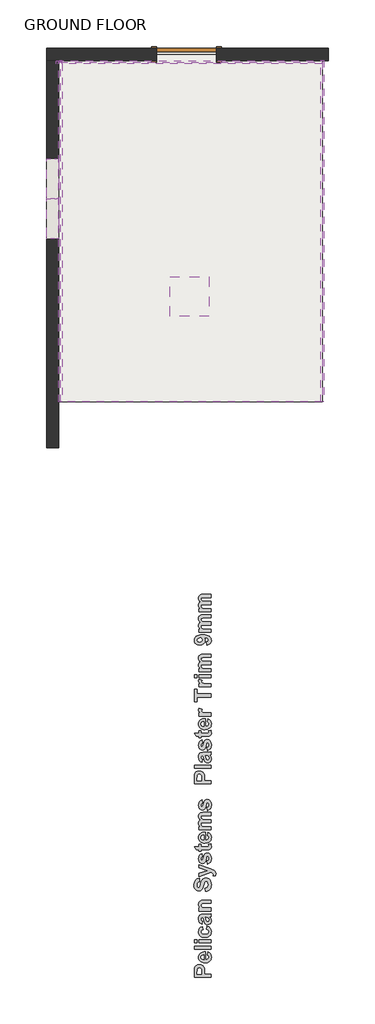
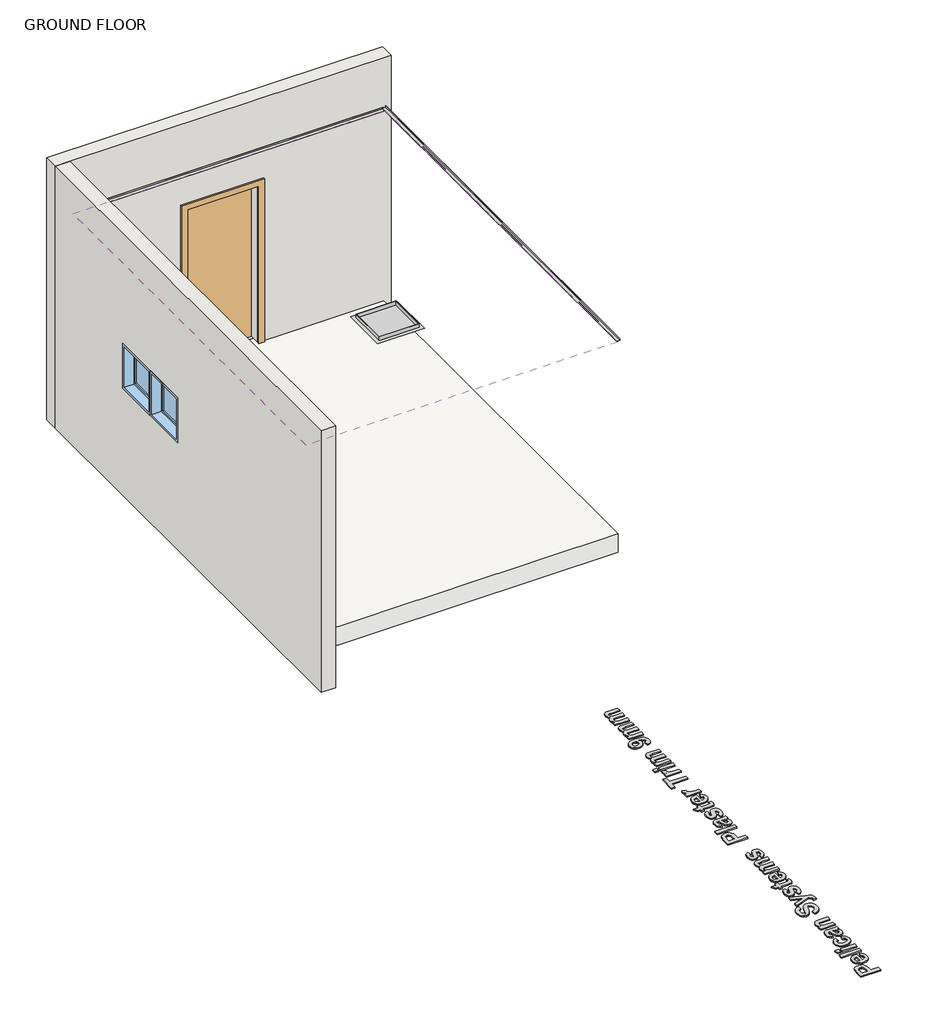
# One storey: 5 proxies, 2 walls, 2 windows, 1 covering, 1 door, 1 slab.
"""IFC4 building model written with IfcOpenShell, lengths in millimetres."""

from ifc_helpers import new_model, si_unit, frame, origin, origin_with_axes, place, context, project, spatial, polyline, outline, extrude, faceted_brep, transform, mapped, element, save
from components import m_single_flush_0915_x_2134mm_f5238887, m_fixed_0610_x_0610mm_09852ef8

model = new_model("IFC4")

# Units and contexts
model_context = context("Model", 3, world=origin())
ifc_project = project(units=[si_unit("LENGTHUNIT", "METRE", prefix="MILLI")], contexts=[model_context])

# Site, building, storey
site = spatial("IfcSite", under=ifc_project)
building = spatial("IfcBuilding", under=site)
storey = spatial("IfcBuildingStorey", under=building, Name="GROUND FLOOR", Elevation=0.0)

# Proxies
placement = place(None, origin())
element("IfcBuildingElementProxy", 1, Name="600mm Arial", ObjectType="600mm Arial", at=placement, inside=storey, context=model_context, shape_type="SweptSolid", body=[
    extrude(outline(polyline([(160266.1883999, 28227.9159281), (160011.1235499, 28227.9159281), (160011.1235499, 28310.0908388), (160014.9191578, 28371.0103454), (160023.9732641, 28391.0558995), (160039.7487594, 28407.5430713), (160061.6604874, 28418.5740567), (160089.123292, 28422.2510519), (160110.6080141, 28420.0922999), (160128.3762035, 28413.6160439), (160142.578103, 28403.8107235), (160153.3639555, 28391.6647783), (160165.4150105, 28364.6210721), (160169.020838, 28310.5336597), (160169.020838, 28276.499709), (160266.1883999, 28276.499709), (160266.1883999, 28227.9159281)]), holes=[polyline([(160055.6586824, 28276.499709), (160124.4857055, 28276.499709), (160124.4857055, 28306.6747917), (160120.6900976, 28350.2293922), (160108.7655628, 28367.436148), (160099.980312, 28372.1094902), (160089.8824136, 28373.6672709), (160077.8155435, 28371.4768889), (160068.0576682, 28364.9057427), (160061.0674237, 28354.9976246), (160057.3034459, 28342.7963268), (160055.6586824, 28303.1322244), (160055.6586824, 28276.499709)])]), origin_with_axes(), (0.0, 0.0, 1.0), 15.0),
    extrude(outline(polyline([(160209.5073221, 28568.0023947), (160217.6046189, 28616.5861757), (160240.2754686, 28604.7565311), (160256.7942704, 28587.6130355), (160266.8763538, 28565.3296542), (160270.2370483, 28538.0803525), (160268.2562154, 28516.0776881), (160262.3137168, 28497.1352325), (160252.4095525, 28481.2529857), (160238.5437225, 28468.4309478), (160209.8394378, 28455.05143), (160174.4612093, 28450.5915908), (160152.6206489, 28452.0702963), (160133.2788637, 28456.506413), (160116.4358537, 28463.8999409), (160102.0916189, 28474.2508799), (160090.6336276, 28486.8633686), (160082.4493481, 28501.0415456), (160077.5387804, 28516.7854108), (160075.9019245, 28534.0949643), (160077.5822717, 28553.329998), (160082.6233135, 28570.4220947), (160091.0250497, 28585.3712546), (160102.7874804, 28598.1774774), (160118.0213108, 28608.3821274), (160136.8372461, 28615.5265685), (160159.2352864, 28619.6108007), (160185.2154316, 28620.6348241), (160185.2154316, 28499.1753717), (160205.6800842, 28502.2909332), (160221.020666, 28510.6254555), (160230.604576, 28522.913736), (160233.7992126, 28537.8905721), (160232.3600446, 28548.0912683), (160228.0425406, 28556.5523109), (160220.5304, 28563.2104398), (160209.5073221, 28568.0023947)]), holes=[polyline([(160156.8748928, 28572.0510431), (160137.6675353, 28569.093632), (160123.6949538, 28561.2335606), (160115.1785586, 28549.8151069), (160112.3397602, 28536.1825486), (160115.3288014, 28521.7908687), (160124.2959251, 28510.1193744), (160138.4503795, 28502.4648985), (160156.8748928, 28499.9977534), (160156.8748928, 28572.0510431)])]), origin_with_axes(), (0.0, 0.0, 1.0), 15.0),
    extrude(outline(polyline([(160266.1883999, 28657.0726598), (160011.1235499, 28657.0726598), (160011.1235499, 28705.6564407), (160266.1883999, 28705.6564407), (160266.1883999, 28657.0726598)])), origin_with_axes(), (0.0, 0.0, 1.0), 15.0),
    extrude(outline(polyline([(160055.6586824, 28754.2402217), (160011.1235499, 28754.2402217), (160011.1235499, 28802.8240026), (160055.6586824, 28802.8240026), (160055.6586824, 28754.2402217)])), origin_with_axes(), (0.0, 0.0, 1.0), 15.0),
    extrude(outline(polyline([(160266.1883999, 28754.2402217), (160079.9505729, 28754.2402217), (160079.9505729, 28802.8240026), (160266.1883999, 28802.8240026), (160266.1883999, 28754.2402217)])), origin_with_axes(), (0.0, 0.0, 1.0), 15.0),
    extrude(outline(polyline([(160132.5830023, 29005.2564233), (160140.6802991, 28956.6726423), (160128.3208509, 28952.9482021), (160119.456525, 28946.3296108), (160114.1189514, 28937.0540941), (160112.3397602, 28925.3588773), (160115.6767322, 28909.9550352), (160125.687648, 28898.0305005), (160143.51119, 28890.3918396), (160170.2860406, 28887.8456193), (160199.9708573, 28890.4946373), (160219.4391628, 28898.4416913), (160230.2092001, 28910.8485846), (160233.7992126, 28926.8771204), (160231.7511658, 28939.0151581), (160225.6070256, 28948.7334958), (160214.4495199, 28955.9846884), (160197.3613769, 28960.7212907), (160205.4586737, 29009.3050717), (160233.6015247, 28998.6694621), (160253.8843043, 28981.3124635), (160266.1488623, 28957.0759257), (160270.2370483, 28925.8016982), (160268.6278687, 28907.0351848), (160263.8003299, 28890.2732268), (160255.754432, 28875.5158243), (160244.4901748, 28862.7629772), (160230.3831655, 28852.4812289), (160213.8090111, 28845.1371231), (160194.7677115, 28840.7306595), (160173.2592668, 28839.2618384), (160151.507666, 28840.7207751), (160132.3062392, 28845.0975855), (160115.6549865, 28852.3922694), (160101.5539078, 28862.6048269), (160090.3311651, 28875.308252), (160082.3149203, 28890.0755389), (160077.5051735, 28906.9066877), (160075.9019245, 28925.8016982), (160079.4049543, 28955.0436939), (160089.9140436, 28977.6117458), (160107.5873428, 28994.1384552), (160132.5830023, 29005.2564233)])), origin_with_axes(), (0.0, 0.0, 1.0), 15.0),
    extrude(outline(polyline([(160136.6316507, 29086.2293915), (160128.5343539, 29041.694259), (160105.1913654, 29051.3493365), (160088.8069913, 29066.1442998), (160079.1281912, 29087.7080971), (160075.9019245, 29117.6696768), (160077.8550811, 29144.7608281), (160083.7145507, 29163.9128329), (160092.5709691, 29176.8495298), (160103.5149719, 29185.2947574), (160120.5240397, 29189.944377), (160147.5756534, 29191.4942502), (160205.0158528, 29191.4942502), (160241.200648, 29194.0562856), (160266.1883999, 29203.6401955), (160266.1883999, 29155.0564145), (160250.7529278, 29150.5016851), (160244.6166951, 29148.7936615), (160263.816145, 29122.7937475), (160268.6318225, 29108.4811428), (160270.2370483, 29093.2512661), (160266.3386427, 29068.4770171), (160254.6434259, 29049.5701453), (160237.0017567, 29037.590258), (160215.2639941, 29033.5969622), (160200.3662331, 29035.3761534), (160187.1764957, 29040.7137269), (160176.2799381, 29049.2617522), (160168.2617164, 29060.6722984), (160156.8116326, 29097.6794753), (160144.7289475, 29142.9104693), (160139.6048769, 29142.9104693), (160126.9844806, 29141.4001337), (160118.6025132, 29136.8691267), (160113.9054485, 29128.1629512), (160112.3397602, 29114.1271095), (160113.684038, 29104.0529336), (160117.7168714, 29096.4775328), (160136.6316507, 29086.2293915)]), holes=[polyline([(160181.1667832, 29142.9104693), (160187.9039872, 29115.5188324), (160195.5900932, 29090.9739014), (160202.5012626, 29084.3790327), (160211.0888254, 29082.1807431), (160219.7001108, 29083.9441193), (160227.0620086, 29089.2342478), (160232.1149116, 29097.2445619), (160233.7992126, 29107.168495), (160231.8381485, 29119.0772148), (160225.9549563, 29130.3849633), (160211.4051261, 29141.1391856), (160189.9599415, 29142.9104693), (160181.1667832, 29142.9104693)])]), origin_with_axes(), (0.0, 0.0, 1.0), 15.0),
    extrude(outline(polyline([(160266.1883999, 29406.0726161), (160266.1883999, 29357.4888352), (160170.475821, 29357.4888352), (160131.1280193, 29354.4523488), (160117.2740505, 29344.5205082), (160112.3397602, 29328.0096139), (160114.1031364, 29316.251137), (160119.3932649, 29305.7736777), (160127.6012669, 29297.4866005), (160138.1182638, 29292.2992697), (160181.2300434, 29288.6618121), (160266.1883999, 29288.6618121), (160266.1883999, 29240.0780312), (160079.9505729, 29240.0780312), (160079.9505729, 29288.6618121), (160106.7728687, 29288.6618121), (160093.2668306, 29300.9540464), (160083.6196605, 29314.7408013), (160077.8313585, 29330.0220768), (160075.9019245, 29346.7978729), (160081.7851167, 29375.0118916), (160096.7777679, 29394.3694918), (160117.4322008, 29403.5105808), (160150.5488796, 29406.0726161), (160266.1883999, 29406.0726161)])), origin_with_axes(), (0.0, 0.0, 1.0), 15.0),
    extrude(outline(polyline([(160181.1667832, 29539.6780137), (160177.1181348, 29588.2617947), (160198.84799, 29595.3469294), (160213.9355313, 29607.2398341), (160222.7603197, 29624.019584), (160225.7019158, 29645.7652542), (160223.1003429, 29668.333306), (160215.2956241, 29684.5437147), (160204.0115982, 29694.317405), (160190.9721036, 29697.5753018), (160175.758042, 29692.1665606), (160164.8456693, 29673.2201512), (160154.0281868, 29631.0889037), (160142.8469586, 29595.1255189), (160129.1669552, 29571.7509004), (160105.8714118, 29553.769208), (160077.9895088, 29547.7753105), (160059.2012498, 29550.5271263), (160041.6781934, 29558.7825734), (160026.7962475, 29572.2253514), (160015.9313199, 29590.5391594), (160009.2890061, 29613.423512), (160007.0749015, 29640.5779234), (160012.594348, 29682.5431131), (160019.493656, 29699.0836606), (160029.1526874, 29712.6628432), (160041.112806, 29723.3241522), (160054.9153759, 29731.111079), (160070.5603972, 29736.0236236), (160088.0478697, 29738.0617859), (160088.0478697, 29689.478005), (160071.3551026, 29684.1088013), (160060.1185217, 29674.8332846), (160053.737156, 29660.7974429), (160051.610034, 29641.1472646), (160053.8715837, 29620.4612016), (160060.6562328, 29604.8359491), (160067.456697, 29598.4783059), (160076.2182252, 29596.3590915), (160084.4894873, 29598.2885255), (160091.4639168, 29604.0768275), (160099.6323813, 29620.8802999), (160108.0697013, 29651.6800764), (160116.8470446, 29684.5516222), (160126.0355787, 29707.5704026), (160137.1614543, 29723.7017361), (160151.7508221, 29735.9109415), (160169.985555, 29743.5970474), (160192.0475258, 29746.1590828), (160213.1131496, 29743.130504), (160232.7870505, 29734.0447676), (160249.3295749, 29719.4158622), (160261.0010691, 29699.7577763), (160267.9280535, 29674.8570071), (160270.2370483, 29644.5000515), (160268.8156722, 29621.7975719), (160264.551544, 29601.894353), (160257.4446636, 29584.790395), (160247.4950311, 29570.4856977), (160234.8212591, 29558.8814174), (160219.5419605, 29549.8787099), (160201.6571352, 29543.4775754), (160181.1667832, 29539.6780137)])), origin_with_axes(), (0.0, 0.0, 1.0), 15.0),
    extrude(outline(polyline([(160079.9505729, 29766.4023248), (160079.9505729, 29814.9861058), (160211.7846869, 29857.4969141), (160079.9505729, 29900.0077224), (160079.9505729, 29948.5915034), (160258.4074037, 29885.5844125), (160291.5557126, 29873.8812881), (160315.1517416, 29862.3363142), (160328.3731091, 29849.7159179), (160336.2489955, 29832.1612315), (160339.0640713, 29808.6600926), (160336.2806255, 29782.5969185), (160300.2856107, 29778.5482701), (160302.6262356, 29797.8426102), (160300.0562928, 29811.6095963), (160292.3464642, 29821.2804889), (160266.1883999, 29832.9519831), (160079.9505729, 29766.4023248)])), origin_with_axes(), (0.0, 0.0, 1.0), 15.0),
    extrude(outline(polyline([(160213.5559705, 29956.6888002), (160205.4586737, 30005.2725812), (160217.6995091, 30009.8984783), (160226.5875576, 30017.703197), (160231.9962988, 30028.9555929), (160233.7992126, 30043.9245215), (160232.075374, 30060.1665602), (160226.9038583, 30071.8222394), (160221.2737066, 30076.5667493), (160213.9987915, 30078.1482526), (160204.8893325, 30074.7954656), (160198.5000592, 30058.9171726), (160186.0694434, 30011.9939701), (160174.7142498, 29986.1047613), (160156.7325575, 29970.1157631), (160132.8993029, 29964.786097), (160110.7108118, 29969.3566415), (160092.3495587, 29983.068275), (160080.013833, 30006.3954485), (160075.9019245, 30039.8126129), (160079.2230814, 30071.6799041), (160089.1865521, 30094.1530658), (160105.6658164, 30109.161532), (160128.5343539, 30118.6347367), (160136.6316507, 30070.0509558), (160126.2411741, 30066.4767583), (160118.6025132, 30060.6884563), (160113.9054485, 30052.338119), (160112.3397602, 30041.0778156), (160113.668223, 30027.2396618), (160117.6536113, 30017.9878676), (160127.5221918, 30013.369878), (160136.31535, 30017.9878676), (160149.9162783, 30060.9731269), (160159.7374137, 30092.1999093), (160171.6145034, 30112.3087236), (160187.2872009, 30123.126206), (160208.1155992, 30126.7320335), (160231.814426, 30121.5051652), (160251.9232403, 30105.8245601), (160259.9355313, 30094.1155051), (160265.6585963, 30079.8958137), (160270.2370483, 30043.9245215), (160266.4256254, 30010.6101548), (160254.9913566, 29985.0609692), (160237.0096643, 29967.1346294), (160213.5559705, 29956.6888002)])), origin_with_axes(), (0.0, 0.0, 1.0), 15.0),
    extrude(outline(polyline([(160079.9505729, 30260.3374312), (160116.3884086, 30260.3374312), (160116.3884086, 30223.8995954), (160196.2859546, 30223.8995954), (160224.5316033, 30225.0066477), (160231.1739171, 30230.0358282), (160233.7992126, 30239.588108), (160229.1179629, 30262.3617554), (160263.6579946, 30264.3860796), (160268.5922849, 30245.6452656), (160270.2370483, 30224.5954569), (160265.6823188, 30200.0505259), (160253.9159344, 30184.0140826), (160234.3685538, 30176.8973178), (160199.0061403, 30175.3158145), (160116.3884086, 30175.3158145), (160116.3884086, 30151.023924), (160079.9505729, 30151.023924), (160079.9505729, 30175.3158145), (160043.5127372, 30175.3158145), (160015.1721983, 30223.8995954), (160079.9505729, 30223.8995954), (160079.9505729, 30260.3374312)])), origin_with_axes(), (0.0, 0.0, 1.0), 15.0),
    extrude(outline(polyline([(160209.5073221, 30393.9428288), (160217.6046189, 30442.5266097), (160240.2754686, 30430.6969651), (160256.7942704, 30413.5534695), (160266.8763538, 30391.2700882), (160270.2370483, 30364.0207866), (160268.2562154, 30342.0181221), (160262.3137168, 30323.0756665), (160252.4095525, 30307.1934198), (160238.5437225, 30294.3713819), (160209.8394378, 30280.9918641), (160174.4612093, 30276.5320248), (160152.6206489, 30278.0107304), (160133.2788637, 30282.4468471), (160116.4358537, 30289.840375), (160102.0916189, 30300.191314), (160090.6336276, 30312.8038027), (160082.4493481, 30326.9819796), (160077.5387804, 30342.7258448), (160075.9019245, 30360.0353983), (160077.5822717, 30379.270432), (160082.6233135, 30396.3625288), (160091.0250497, 30411.3116886), (160102.7874804, 30424.1179115), (160118.0213108, 30434.3225614), (160136.8372461, 30441.4670025), (160159.2352864, 30445.5512347), (160185.2154316, 30446.5752581), (160185.2154316, 30325.1158058), (160205.6800842, 30328.2313672), (160221.020666, 30336.5658895), (160230.604576, 30348.8541701), (160233.7992126, 30363.8310062), (160232.3600446, 30374.0317024), (160228.0425406, 30382.492745), (160220.5304, 30389.1508738), (160209.5073221, 30393.9428288)]), holes=[polyline([(160156.8748928, 30397.9914772), (160137.6675353, 30395.034066), (160123.6949538, 30387.1739947), (160115.1785586, 30375.755541), (160112.3397602, 30362.1229826), (160115.3288014, 30347.7313027), (160124.2959251, 30336.0598085), (160138.4503795, 30328.4053326), (160156.8748928, 30325.9381875), (160156.8748928, 30397.9914772)])]), origin_with_axes(), (0.0, 0.0, 1.0), 15.0),
    extrude(outline(polyline([(160079.9505729, 30478.9644454), (160079.9505729, 30527.5482264), (160104.8750647, 30527.5482264), (160092.1993159, 30539.508345), (160083.1452096, 30552.5517933), (160077.7127458, 30566.6785714), (160075.9019245, 30581.8886793), (160077.6811157, 30597.5376543), (160083.0186893, 30610.9567097), (160091.9620904, 30622.1616605), (160104.5587641, 30631.1683217), (160091.9620904, 30643.606845), (160083.0186893, 30657.0100854), (160077.6811157, 30671.3622277), (160075.9019245, 30686.647457), (160077.9816013, 30705.1036003), (160084.2206318, 30720.4916273), (160094.4924956, 30732.6059425), (160108.6706726, 30741.2409504), (160124.24848, 30744.9416681), (160147.1960926, 30746.1752407), (160266.1883999, 30746.1752407), (160266.1883999, 30697.5914597), (160158.9624771, 30697.5914597), (160136.0148644, 30696.3578871), (160122.9674623, 30692.6571695), (160114.9966857, 30684.275202), (160112.3397602, 30672.2874071), (160113.929171, 30662.5848845), (160118.6974034, 30653.467518), (160126.5337522, 30645.8763022), (160137.3275121, 30640.7522316), (160176.1059727, 30636.8617335), (160266.1883999, 30636.8617335), (160266.1883999, 30588.2779526), (160163.3906863, 30588.2779526), (160128.0599029, 30585.7475473), (160116.2302583, 30577.9349211), (160112.3397602, 30563.5432412), (160113.8817259, 30553.1527646), (160118.507623, 30543.8693403), (160126.0513937, 30536.3730147), (160136.3469801, 30531.3438343), (160175.0305505, 30527.5482264), (160266.1883999, 30527.5482264), (160266.1883999, 30478.9644454), (160079.9505729, 30478.9644454)])), origin_with_axes(), (0.0, 0.0, 1.0), 15.0),
    extrude(outline(polyline([(160213.5559705, 30774.5157795), (160205.4586737, 30823.0995605), (160217.6995091, 30827.7254576), (160226.5875576, 30835.5301763), (160231.9962988, 30846.7825722), (160233.7992126, 30861.7515008), (160232.075374, 30877.9935396), (160226.9038583, 30889.6492188), (160221.2737066, 30894.3937286), (160213.9987915, 30895.9752319), (160204.8893325, 30892.622445), (160198.5000592, 30876.744152), (160186.0694434, 30829.8209495), (160174.7142498, 30803.9317407), (160156.7325575, 30787.9427424), (160132.8993029, 30782.6130764), (160110.7108118, 30787.1836209), (160092.3495587, 30800.8952544), (160080.013833, 30824.2224278), (160075.9019245, 30857.6395923), (160079.2230814, 30889.5068835), (160089.1865521, 30911.9800452), (160105.6658164, 30926.9885114), (160128.5343539, 30936.461716), (160136.6316507, 30887.8779351), (160126.2411741, 30884.3037377), (160118.6025132, 30878.5154356), (160113.9054485, 30870.1650983), (160112.3397602, 30858.9047949), (160113.668223, 30845.0666411), (160117.6536113, 30835.8148469), (160127.5221918, 30831.1968573), (160136.31535, 30835.8148469), (160149.9162783, 30878.8001062), (160159.7374137, 30910.0268886), (160171.6145034, 30930.1357029), (160187.2872009, 30940.9531854), (160208.1155992, 30944.5590129), (160231.814426, 30939.3321445), (160251.9232403, 30923.6515394), (160259.9355313, 30911.9424845), (160265.6585963, 30897.722793), (160270.2370483, 30861.7515008), (160266.4256254, 30828.4371341), (160254.9913566, 30802.8879485), (160237.0096643, 30784.9616087), (160213.5559705, 30774.5157795)])), origin_with_axes(), (0.0, 0.0, 1.0), 15.0),
    extrude(outline(polyline([(160266.1883999, 31183.4292692), (160011.1235499, 31183.4292692), (160011.1235499, 31265.60418), (160014.9191578, 31326.5236865), (160023.9732641, 31346.5692407), (160039.7487594, 31363.0564124), (160061.6604874, 31374.0873979), (160089.123292, 31377.764393), (160110.6080141, 31375.605641), (160128.3762035, 31369.1293851), (160142.578103, 31359.3240647), (160153.3639555, 31347.1781195), (160165.4150105, 31320.1344133), (160169.020838, 31266.0470009), (160169.020838, 31232.0130502), (160266.1883999, 31232.0130502), (160266.1883999, 31183.4292692)]), holes=[polyline([(160055.6586824, 31232.0130502), (160124.4857055, 31232.0130502), (160124.4857055, 31262.1881329), (160120.6900976, 31305.7427334), (160108.7655628, 31322.9494891), (160099.980312, 31327.6228313), (160089.8824136, 31329.1806121), (160077.8155435, 31326.99023), (160068.0576682, 31320.4190839), (160061.0674237, 31310.5109658), (160057.3034459, 31298.3096679), (160055.6586824, 31258.6455655), (160055.6586824, 31232.0130502)])]), origin_with_axes(), (0.0, 0.0, 1.0), 15.0),
    extrude(outline(polyline([(160266.1883999, 31418.2508771), (160011.1235499, 31418.2508771), (160011.1235499, 31466.8346581), (160266.1883999, 31466.8346581), (160266.1883999, 31418.2508771)])), origin_with_axes(), (0.0, 0.0, 1.0), 15.0),
    extrude(outline(polyline([(160136.6316507, 31555.9049232), (160128.5343539, 31511.3697906), (160105.1913654, 31521.0248682), (160088.8069913, 31535.8198314), (160079.1281912, 31557.3836287), (160075.9019245, 31587.3452085), (160077.8550811, 31614.4363598), (160083.7145507, 31633.5883646), (160092.5709691, 31646.5250615), (160103.5149719, 31654.970289), (160120.5240397, 31659.6199087), (160147.5756534, 31661.1697819), (160205.0158528, 31661.1697819), (160241.200648, 31663.7318172), (160266.1883999, 31673.3157271), (160266.1883999, 31624.7319462), (160250.7529278, 31620.1772167), (160244.6166951, 31618.4691932), (160263.816145, 31592.4692791), (160268.6318225, 31578.1566744), (160270.2370483, 31562.9267978), (160266.3386427, 31538.1525488), (160254.6434259, 31519.245677), (160237.0017567, 31507.2657896), (160215.2639941, 31503.2724938), (160200.3662331, 31505.051685), (160187.1764957, 31510.3892586), (160176.2799381, 31518.9372838), (160168.2617164, 31530.3478301), (160156.8116326, 31567.355007), (160144.7289475, 31612.5860009), (160139.6048769, 31612.5860009), (160126.9844806, 31611.0756653), (160118.6025132, 31606.5446584), (160113.9054485, 31597.8384828), (160112.3397602, 31583.8026411), (160113.684038, 31573.7284652), (160117.7168714, 31566.1530645), (160136.6316507, 31555.9049232)]), holes=[polyline([(160181.1667832, 31612.5860009), (160187.9039872, 31585.194364), (160195.5900932, 31560.649433), (160202.5012626, 31554.0545643), (160211.0888254, 31551.8562747), (160219.7001108, 31553.6196509), (160227.0620086, 31558.9097794), (160232.1149116, 31566.9200935), (160233.7992126, 31576.8440267), (160231.8381485, 31588.7527464), (160225.9549563, 31600.0604949), (160211.4051261, 31610.8147173), (160189.9599415, 31612.5860009), (160181.1667832, 31612.5860009)])]), origin_with_axes(), (0.0, 0.0, 1.0), 15.0),
    extrude(outline(polyline([(160213.5559705, 31689.5103208), (160205.4586737, 31738.0941017), (160217.6995091, 31742.7199988), (160226.5875576, 31750.5247176), (160231.9962988, 31761.7771134), (160233.7992126, 31776.746042), (160232.075374, 31792.9880808), (160226.9038583, 31804.64376), (160221.2737066, 31809.3882699), (160213.9987915, 31810.9697731), (160204.8893325, 31807.6169862), (160198.5000592, 31791.7386932), (160186.0694434, 31744.8154907), (160174.7142498, 31718.9262819), (160156.7325575, 31702.9372837), (160132.8993029, 31697.6076176), (160110.7108118, 31702.1781621), (160092.3495587, 31715.8897956), (160080.013833, 31739.2169691), (160075.9019245, 31772.6341335), (160079.2230814, 31804.5014247), (160089.1865521, 31826.9745864), (160105.6658164, 31841.9830526), (160128.5343539, 31851.4562573), (160136.6316507, 31802.8724763), (160126.2411741, 31799.2982789), (160118.6025132, 31793.5099769), (160113.9054485, 31785.1596395), (160112.3397602, 31773.8993361), (160113.668223, 31760.0611824), (160117.6536113, 31750.8093881), (160127.5221918, 31746.1913985), (160136.31535, 31750.8093881), (160149.9162783, 31793.7946475), (160159.7374137, 31825.0214298), (160171.6145034, 31845.1302441), (160187.2872009, 31855.9477266), (160208.1155992, 31859.5535541), (160231.814426, 31854.3266857), (160251.9232403, 31838.6460807), (160259.9355313, 31826.9370257), (160265.6585963, 31812.7173343), (160270.2370483, 31776.746042), (160266.4256254, 31743.4316753), (160254.9913566, 31717.8824897), (160237.0096643, 31699.95615), (160213.5559705, 31689.5103208)])), origin_with_axes(), (0.0, 0.0, 1.0), 15.0),
    extrude(outline(polyline([(160079.9505729, 31993.1589517), (160116.3884086, 31993.1589517), (160116.3884086, 31956.721116), (160196.2859546, 31956.721116), (160224.5316033, 31957.8281683), (160231.1739171, 31962.8573488), (160233.7992126, 31972.4096286), (160229.1179629, 31995.1832759), (160263.6579946, 31997.2076001), (160268.5922849, 31978.4667862), (160270.2370483, 31957.4169774), (160265.6823188, 31932.8720464), (160253.9159344, 31916.8356031), (160234.3685538, 31909.7188383), (160199.0061403, 31908.137335), (160116.3884086, 31908.137335), (160116.3884086, 31883.8454446), (160079.9505729, 31883.8454446), (160079.9505729, 31908.137335), (160043.5127372, 31908.137335), (160015.1721983, 31956.721116), (160079.9505729, 31956.721116), (160079.9505729, 31993.1589517)])), origin_with_axes(), (0.0, 0.0, 1.0), 15.0),
    extrude(outline(polyline([(160209.5073221, 32126.7643493), (160217.6046189, 32175.3481303), (160240.2754686, 32163.5184857), (160256.7942704, 32146.3749901), (160266.8763538, 32124.0916088), (160270.2370483, 32096.8423072), (160268.2562154, 32074.8396427), (160262.3137168, 32055.8971871), (160252.4095525, 32040.0149403), (160238.5437225, 32027.1929024), (160209.8394378, 32013.8133846), (160174.4612093, 32009.3535454), (160152.6206489, 32010.8322509), (160133.2788637, 32015.2683677), (160116.4358537, 32022.6618955), (160102.0916189, 32033.0128345), (160090.6336276, 32045.6253232), (160082.4493481, 32059.8035002), (160077.5387804, 32075.5473654), (160075.9019245, 32092.8569189), (160077.5822717, 32112.0919526), (160082.6233135, 32129.1840494), (160091.0250497, 32144.1332092), (160102.7874804, 32156.939432), (160118.0213108, 32167.144082), (160136.8372461, 32174.2885231), (160159.2352864, 32178.3727553), (160185.2154316, 32179.3967787), (160185.2154316, 32057.9373263), (160205.6800842, 32061.0528878), (160221.020666, 32069.3874101), (160230.604576, 32081.6756906), (160233.7992126, 32096.6525268), (160232.3600446, 32106.853223), (160228.0425406, 32115.3142655), (160220.5304, 32121.9723944), (160209.5073221, 32126.7643493)]), holes=[polyline([(160156.8748928, 32130.8129977), (160137.6675353, 32127.8555866), (160123.6949538, 32119.9955153), (160115.1785586, 32108.5770615), (160112.3397602, 32094.9445032), (160115.3288014, 32080.5528233), (160124.2959251, 32068.8813291), (160138.4503795, 32061.2268531), (160156.8748928, 32058.759708), (160156.8748928, 32130.8129977)])]), origin_with_axes(), (0.0, 0.0, 1.0), 15.0),
    extrude(outline(polyline([(160266.1883999, 32264.4183954), (160266.1883999, 32215.8346144), (160079.9505729, 32215.8346144), (160079.9505729, 32264.4183954), (160105.8872268, 32264.4183954), (160081.6902265, 32283.8392557), (160075.9019245, 32303.4498965), (160078.4639598, 32318.616513), (160086.1500658, 32333.2454184), (160132.3932219, 32319.0751489), (160126.4625846, 32307.3720246), (160124.4857055, 32296.5545421), (160130.020967, 32279.4426766), (160137.7782406, 32273.1957386), (160149.9795384, 32268.4354137), (160210.4562241, 32264.4183954), (160266.1883999, 32264.4183954)])), origin_with_axes(), (0.0, 0.0, 1.0), 15.0),
    extrude(outline(polyline([(160266.1883999, 32507.3373001), (160055.6586824, 32507.3373001), (160055.6586824, 32434.4616287), (160011.1235499, 32434.4616287), (160011.1235499, 32628.7967525), (160055.6586824, 32628.7967525), (160055.6586824, 32555.9210811), (160266.1883999, 32555.9210811), (160266.1883999, 32507.3373001)])), origin_with_axes(), (0.0, 0.0, 1.0), 15.0),
    extrude(outline(polyline([(160266.1883999, 32709.7697207), (160266.1883999, 32661.1859398), (160079.9505729, 32661.1859398), (160079.9505729, 32709.7697207), (160105.8872268, 32709.7697207), (160081.6902265, 32729.1905811), (160075.9019245, 32748.8012218), (160078.4639598, 32763.9678383), (160086.1500658, 32778.5967437), (160132.3932219, 32764.4264743), (160126.4625846, 32752.72335), (160124.4857055, 32741.9058675), (160130.020967, 32724.7940019), (160137.7782406, 32718.547064), (160149.9795384, 32713.7867391), (160210.4562241, 32709.7697207), (160266.1883999, 32709.7697207)])), origin_with_axes(), (0.0, 0.0, 1.0), 15.0),
    extrude(outline(polyline([(160055.6586824, 32798.8399858), (160011.1235499, 32798.8399858), (160011.1235499, 32847.4237668), (160055.6586824, 32847.4237668), (160055.6586824, 32798.8399858)])), origin_with_axes(), (0.0, 0.0, 1.0), 15.0),
    extrude(outline(polyline([(160266.1883999, 32798.8399858), (160079.9505729, 32798.8399858), (160079.9505729, 32847.4237668), (160266.1883999, 32847.4237668), (160266.1883999, 32798.8399858)])), origin_with_axes(), (0.0, 0.0, 1.0), 15.0),
    extrude(outline(polyline([(160079.9505729, 32891.9588993), (160079.9505729, 32940.5426802), (160104.8750647, 32940.5426802), (160092.1993159, 32952.5027988), (160083.1452096, 32965.5462472), (160077.7127458, 32979.6730253), (160075.9019245, 32994.8831332), (160077.6811157, 33010.5321082), (160083.0186893, 33023.9511636), (160091.9620904, 33035.1561143), (160104.5587641, 33044.1627756), (160091.9620904, 33056.6012989), (160083.0186893, 33070.0045392), (160077.6811157, 33084.3566816), (160075.9019245, 33099.6419108), (160077.9816013, 33118.0980542), (160084.2206318, 33133.4860812), (160094.4924956, 33145.6003963), (160108.6706726, 33154.2354043), (160124.24848, 33157.936122), (160147.1960926, 33159.1696945), (160266.1883999, 33159.1696945), (160266.1883999, 33110.5859136), (160158.9624771, 33110.5859136), (160136.0148644, 33109.352341), (160122.9674623, 33105.6516233), (160114.9966857, 33097.2696559), (160112.3397602, 33085.281861), (160113.929171, 33075.5793383), (160118.6974034, 33066.4619719), (160126.5337522, 33058.8707561), (160137.3275121, 33053.7466855), (160176.1059727, 33049.8561874), (160266.1883999, 33049.8561874), (160266.1883999, 33001.2724064), (160163.3906863, 33001.2724064), (160128.0599029, 32998.7420012), (160116.2302583, 32990.9293749), (160112.3397602, 32976.537695), (160113.8817259, 32966.1472184), (160118.507623, 32956.8637942), (160126.0513937, 32949.3674686), (160136.3469801, 32944.3382881), (160175.0305505, 32940.5426802), (160266.1883999, 32940.5426802), (160266.1883999, 32891.9588993), (160079.9505729, 32891.9588993)])), origin_with_axes(), (0.0, 0.0, 1.0), 15.0),
    extrude(outline(polyline([(160202.5487077, 33300.872389), (160197.3613769, 33349.4561699), (160209.918513, 33352.4373036), (160218.7433013, 33358.0911779), (160223.9622622, 33366.1963822), (160225.7019158, 33376.5315062), (160222.3412213, 33389.8793939), (160212.2591378, 33401.0764372), (160191.4702771, 33409.3793294), (160155.9892509, 33414.0447641), (160171.8359138, 33393.754077), (160177.1181348, 33368.9402904), (160171.4484455, 33341.540746), (160154.4393777, 33318.1740349), (160128.336666, 33302.1613141), (160095.386045, 33296.8237405), (160061.1702214, 33302.3036494), (160046.820056, 33309.1535355), (160034.3083881, 33318.7433761), (160024.1650214, 33330.452431), (160016.9197594, 33343.6599604), (160011.1235499, 33374.5704421), (160012.9877469, 33392.1844349), (160018.5803379, 33408.1457569), (160027.9013229, 33422.4544078), (160040.9507019, 33435.1103879), (160058.2701397, 33445.4613269), (160080.4013014, 33452.8548548), (160107.3441867, 33457.2909715), (160139.0987958, 33458.769677), (160171.4662375, 33457.2237576), (160198.9824178, 33452.5859992), (160221.6473367, 33444.8564019), (160239.4609944, 33434.0349657), (160252.925518, 33420.734523), (160262.5430348, 33405.5679065), (160268.3135449, 33388.5351161), (160270.2370483, 33369.6361518), (160265.9986195, 33343.7943881), (160253.2833331, 33323.4562559), (160232.1228191, 33309.0171309), (160202.5487077, 33300.872389)]), holes=[polyline([(160096.5247274, 33410.1858961), (160079.278434, 33407.5764157), (160066.3812747, 33399.7479744), (160058.3393305, 33388.503486), (160055.6586824, 33375.6458643), (160057.856972, 33363.7213296), (160064.4518407, 33354.0108994), (160076.0442598, 33347.558366), (160093.2352005, 33345.4075215), (160110.8452396, 33347.7481464), (160123.0623525, 33354.770021), (160130.2028398, 33365.2870178), (160132.5830023, 33378.1130095), (160130.29773, 33390.5831629), (160123.4419133, 33400.9182868), (160112.1420723, 33407.8689938), (160096.5247274, 33410.1858961)])]), origin_with_axes(), (0.0, 0.0, 1.0), 15.0),
    extrude(outline(polyline([(160079.9505729, 33495.2075128), (160079.9505729, 33543.7912937), (160104.8750647, 33543.7912937), (160092.1993159, 33555.7514123), (160083.1452096, 33568.7948607), (160077.7127458, 33582.9216388), (160075.9019245, 33598.1317466), (160077.6811157, 33613.7807216), (160083.0186893, 33627.199777), (160091.9620904, 33638.4047278), (160104.5587641, 33647.411389), (160091.9620904, 33659.8499124), (160083.0186893, 33673.2531527), (160077.6811157, 33687.605295), (160075.9019245, 33702.8905243), (160077.9816013, 33721.3466676), (160084.2206318, 33736.7346946), (160094.4924956, 33748.8490098), (160108.6706726, 33757.4840177), (160124.24848, 33761.1847354), (160147.1960926, 33762.418308), (160266.1883999, 33762.418308), (160266.1883999, 33713.834527), (160158.9624771, 33713.834527), (160136.0148644, 33712.6009545), (160122.9674623, 33708.9002368), (160114.9966857, 33700.5182694), (160112.3397602, 33688.5304745), (160113.929171, 33678.8279518), (160118.6974034, 33669.7105854), (160126.5337522, 33662.1193696), (160137.3275121, 33656.9952989), (160176.1059727, 33653.1048008), (160266.1883999, 33653.1048008), (160266.1883999, 33604.5210199), (160163.3906863, 33604.5210199), (160128.0599029, 33601.9906146), (160116.2302583, 33594.1779884), (160112.3397602, 33579.7863085), (160113.8817259, 33569.3958319), (160118.507623, 33560.1124076), (160126.0513937, 33552.616082), (160136.3469801, 33547.5869016), (160175.0305505, 33543.7912937), (160266.1883999, 33543.7912937), (160266.1883999, 33495.2075128), (160079.9505729, 33495.2075128)])), origin_with_axes(), (0.0, 0.0, 1.0), 15.0),
    extrude(outline(polyline([(160079.9505729, 33806.9534405), (160079.9505729, 33855.5372215), (160104.8750647, 33855.5372215), (160092.1993159, 33867.4973401), (160083.1452096, 33880.5407884), (160077.7127458, 33894.6675665), (160075.9019245, 33909.8776744), (160077.6811157, 33925.5266494), (160083.0186893, 33938.9457048), (160091.9620904, 33950.1506556), (160104.5587641, 33959.1573168), (160091.9620904, 33971.5958401), (160083.0186893, 33984.9990805), (160077.6811157, 33999.3512228), (160075.9019245, 34014.6364521), (160077.9816013, 34033.0925954), (160084.2206318, 34048.4806224), (160094.4924956, 34060.5949376), (160108.6706726, 34069.2299455), (160124.24848, 34072.9306632), (160147.1960926, 34074.1642358), (160266.1883999, 34074.1642358), (160266.1883999, 34025.5804548), (160158.9624771, 34025.5804548), (160136.0148644, 34024.3468822), (160122.9674623, 34020.6461645), (160114.9966857, 34012.2641971), (160112.3397602, 34000.2764022), (160113.929171, 33990.5738796), (160118.6974034, 33981.4565131), (160126.5337522, 33973.8652973), (160137.3275121, 33968.7412267), (160176.1059727, 33964.8507286), (160266.1883999, 33964.8507286), (160266.1883999, 33916.2669477), (160163.3906863, 33916.2669477), (160128.0599029, 33913.7365424), (160116.2302583, 33905.9239162), (160112.3397602, 33891.5322363), (160113.8817259, 33881.1417597), (160118.507623, 33871.8583354), (160126.0513937, 33864.3620098), (160136.3469801, 33859.3328294), (160175.0305505, 33855.5372215), (160266.1883999, 33855.5372215), (160266.1883999, 33806.9534405), (160079.9505729, 33806.9534405)])), origin_with_axes(), (0.0, 0.0, 1.0), 15.0),
])
element("IfcBuildingElementProxy", 2, Name="Ceiling_Access_HatchPanel_Parametric : In Lay", ObjectType="Ceiling_Access_HatchPanel_Parametric : In Lay", at=placement, inside=storey, context=model_context, shape_type="SolidModel", body=[
    faceted_brep([(159682.6212716, 38871.9489557, 2650.0), (159682.6212716, 38361.2489557, 2650.0), (160193.3212716, 38361.2489557, 2650.0), (160193.3212716, 38871.9489557, 2650.0), (159688.9712716, 38865.5989557, 2650.0), (160186.9712716, 38865.5989557, 2650.0), (160186.9712716, 38367.5989557, 2650.0), (159688.9712716, 38367.5989557, 2650.0), (159682.6212716, 38871.9489557, 2600.0), (160193.3212716, 38871.9489557, 2600.0), (160193.3212716, 38361.2489557, 2600.0), (159682.6212716, 38361.2489557, 2600.0), (159688.9712716, 38865.5989557, 2600.0), (159688.9712716, 38367.5989557, 2600.0), (160186.9712716, 38367.5989557, 2600.0), (160186.9712716, 38865.5989557, 2600.0), (159682.6212716, 38871.9489557, 2609.0), (159682.6212716, 38361.2489557, 2609.0), (160193.3212716, 38361.2489557, 2609.0), (160193.3212716, 38871.9489557, 2609.0)], [[[0, 1, 2, 3], [4, 5, 6, 7]], [[8, 9, 10, 11], [12, 13, 14, 15]], [[5, 4, 12, 15]], [[6, 5, 15, 14]], [[7, 6, 14, 13]], [[4, 7, 13, 12]], [[1, 0, 16, 8, 11, 17]], [[2, 1, 17, 11, 10, 18]], [[3, 2, 18, 10, 9, 19]], [[0, 3, 19, 9, 8, 16]]]),
    extrude(outline(polyline([(159688.9712716, 38865.5989557), (160186.9712716, 38865.5989557), (160186.9712716, 38367.5989557), (159688.9712716, 38367.5989557), (159688.9712716, 38865.5989557)])), frame((0.0, 0.0, 2593.65), z_axis=(0.0, 0.0, 1.0), x_axis=(1.0, 0.0, 0.0)), (0.0, 0.0, 1.0), 6.35),
    faceted_brep([(159688.9712716, 38865.5989557, 2600.0), (159688.9712716, 38865.5989557, 2590.475), (160186.9712716, 38865.5989557, 2590.475), (160186.9712716, 38865.5989557, 2600.0), (160186.9712716, 38367.5989557, 2590.475), (160186.9712716, 38367.5989557, 2600.0), (159688.9712716, 38367.5989557, 2590.475), (159688.9712716, 38367.5989557, 2600.0), (160225.0712716, 38903.6989557, 2590.475), (160225.0712716, 38329.4989557, 2590.475), (159650.8712716, 38329.4989557, 2590.475), (159650.8712716, 38903.6989557, 2590.475), (159638.1712716, 38916.3989557, 2600.0), (159638.1712716, 38316.7989557, 2600.0), (160237.7712716, 38316.7989557, 2600.0), (160237.7712716, 38916.3989557, 2600.0)], [[[0, 1, 2, 3]], [[3, 2, 4, 5]], [[5, 4, 6, 7]], [[8, 9, 10, 11], [1, 6, 4, 2]], [[12, 13, 14, 15], [3, 5, 7, 0]], [[7, 6, 1, 0]], [[11, 12, 15, 8]], [[8, 15, 14, 9]], [[9, 14, 13, 10]], [[10, 13, 12, 11]]]),
])
element("IfcBuildingElementProxy", 3, Name="TR08 : Trims Pelican Systems Plaster Trim 9mm", ObjectType="TR08 : Trims Pelican Systems Plaster Trim 9mm", at=placement, inside=storey, context=model_context, shape_type="Brep", body=[
    faceted_brep([(161960.7345529, 42216.9193804, 2610.0), (161960.7345529, 42171.9193804, 2610.0), (161960.7345529, 42171.9193804, 2609.0), (161960.7345529, 42193.9193804, 2609.0), (161960.7345529, 42193.9193804, 2597.0), (161960.7345529, 42194.9193804, 2597.0), (161960.7345529, 42194.9193804, 2609.0), (161960.7345529, 42217.9193804, 2609.0), (161960.7345529, 42217.9193804, 2617.0), (161960.7345529, 42216.9193804, 2617.0), (157900.7345529, 42217.9193804, 2630.0), (157900.7345529, 42217.9193804, 2609.0), (157900.7345529, 42194.9193804, 2609.0), (157900.7345529, 42194.9193804, 2597.0), (157900.7345529, 42193.9193804, 2597.0), (157900.7345529, 42193.9193804, 2609.0), (157900.7345529, 42171.9193804, 2609.0), (157900.7345529, 42171.9193804, 2610.0), (157900.7345529, 42216.9193804, 2610.0), (157900.7345529, 42216.9193804, 2630.0), (161960.7345529, 42217.9193804, 2630.0), (161960.7345529, 42217.9193804, 2618.0), (161945.7345529, 42217.9193804, 2618.0), (161945.7345529, 42217.9193804, 2617.0), (157988.7345529, 42194.9193804, 2609.0), (157988.7345529, 42216.9193804, 2609.0), (157966.7345529, 42216.9193804, 2609.0), (157965.7345529, 42216.9193804, 2609.0), (157942.7345529, 42216.9193804, 2609.0), (157942.7345529, 42194.9193804, 2609.0), (157966.7345529, 42194.9193804, 2597.0), (157966.7345529, 42194.9193804, 2609.0), (157966.7345529, 42193.9193804, 2597.0), (157988.7345529, 42171.9193804, 2610.0), (157988.7345529, 42171.9193804, 2609.0), (157988.7345529, 42216.9193804, 2610.0), (161960.7345529, 42216.9193804, 2630.0), (157942.7345529, 42216.9193804, 2630.0), (157943.7345529, 42216.9193804, 2630.0), (161960.7345529, 42216.9193804, 2618.0), (157942.7345529, 42216.9193804, 2610.0), (161945.7345529, 42216.9193804, 2617.0), (161945.7345529, 42216.9193804, 2618.0), (157988.7345529, 42193.9193804, 2609.0), (157966.7345529, 42193.9193804, 2609.0), (157942.7345529, 42171.9193804, 2610.0), (157942.7345529, 42171.9193804, 2609.0), (157942.7345529, 42193.9193804, 2609.0), (157965.7345529, 42193.9193804, 2609.0), (157965.7345529, 42194.9193804, 2609.0), (157965.7345529, 42194.9193804, 2597.0), (157965.7345529, 42193.9193804, 2597.0)], [[[0, 1, 2, 3, 4, 5, 6, 7, 8, 9]], [[10, 11, 12, 13, 14, 15, 16, 17, 18, 19]], [[11, 10, 20, 21, 22, 23, 8, 7]], [[7, 6, 24, 25, 26, 27, 28, 29, 12, 11]], [[6, 5, 30, 31, 24]], [[5, 4, 32, 30]], [[2, 1, 33, 34]], [[1, 0, 35, 33]], [[36, 20, 10, 19, 37, 38]], [[20, 36, 39, 21]], [[19, 18, 40, 28, 27, 26, 25, 35, 0, 9, 41, 42, 39, 36, 38, 37]], [[4, 3, 43, 44, 32]], [[35, 25, 24, 43, 34, 33]], [[41, 23, 22, 42]], [[28, 40, 45, 46, 47, 29]], [[29, 47, 48, 49]], [[50, 49, 48, 51]], [[31, 30, 32, 44]], [[17, 16, 46, 45]], [[18, 17, 45, 40]], [[3, 2, 34, 43]], [[43, 24, 31, 44]], [[16, 15, 47, 46]], [[42, 22, 21, 39]], [[23, 41, 9, 8]], [[13, 12, 29, 49, 50]], [[14, 13, 50, 51]], [[15, 14, 51, 48, 47]]]),
])
element("IfcBuildingElementProxy", 4, Name="TR08 : Trims Pelican Systems Plaster Trim 9mm", ObjectType="TR08 : Trims Pelican Systems Plaster Trim 9mm", at=placement, inside=storey, context=model_context, shape_type="Brep", body=[
    faceted_brep([(161991.7345529, 37012.9193804, 2638.0), (161990.7345529, 37012.9193804, 2638.0), (161990.7345529, 37012.9193804, 2618.0), (161945.7345529, 37012.9193804, 2618.0), (161945.7345529, 37012.9193804, 2617.0), (161967.7345529, 37012.9193804, 2617.0), (161967.7345529, 37012.9193804, 2605.0), (161968.7345529, 37012.9193804, 2605.0), (161968.7345529, 37012.9193804, 2617.0), (161991.7345529, 37012.9193804, 2617.0), (161991.7345529, 42222.9193804, 2638.0), (161991.7345529, 42222.9193804, 2617.0), (161968.7345529, 42222.9193804, 2617.0), (161968.7345529, 42222.9193804, 2605.0), (161967.7345529, 42222.9193804, 2605.0), (161967.7345529, 42222.9193804, 2617.0), (161945.7345529, 42222.9193804, 2617.0), (161945.7345529, 42222.9193804, 2618.0), (161990.7345529, 42222.9193804, 2618.0), (161990.7345529, 42222.9193804, 2638.0), (161945.7345529, 42216.9193804, 2618.0), (161945.7345529, 42217.9193804, 2618.0), (161945.7345529, 42217.9193804, 2617.0), (161945.7345529, 42216.9193804, 2617.0)], [[[0, 1, 2, 3, 4, 5, 6, 7, 8, 9]], [[10, 11, 12, 13, 14, 15, 16, 17, 18, 19]], [[9, 11, 10, 0]], [[8, 12, 11, 9]], [[7, 13, 12, 8]], [[6, 14, 13, 7]], [[3, 20, 21, 17, 16, 22, 23, 4]], [[2, 18, 17, 21, 20, 3]], [[1, 19, 18, 2]], [[0, 10, 19, 1]], [[5, 15, 14, 6]], [[4, 23, 22, 16, 15, 5]]]),
])
element("IfcBuildingElementProxy", 5, Name="TR08 : Trims Pelican Systems Plaster Trim 9mm", ObjectType="TR08 : Trims Pelican Systems Plaster Trim 9mm", at=placement, inside=storey, context=model_context, shape_type="Brep", body=[
    faceted_brep([(157942.7345529, 42216.9193804, 2630.0), (157943.7345529, 42216.9193804, 2630.0), (157943.7345529, 42216.9193804, 2610.0), (157988.7345529, 42216.9193804, 2610.0), (157988.7345529, 42216.9193804, 2609.0), (157966.7345529, 42216.9193804, 2609.0), (157966.7345529, 42216.9193804, 2597.0), (157965.7345529, 42216.9193804, 2597.0), (157965.7345529, 42216.9193804, 2609.0), (157942.7345529, 42216.9193804, 2609.0), (157942.7345529, 42216.9193804, 2610.0), (157942.7345529, 37012.9193804, 2630.0), (157942.7345529, 37012.9193804, 2609.0), (157965.7345529, 37012.9193804, 2609.0), (157965.7345529, 37012.9193804, 2597.0), (157966.7345529, 37012.9193804, 2597.0), (157966.7345529, 37012.9193804, 2609.0), (157988.7345529, 37012.9193804, 2609.0), (157988.7345529, 37012.9193804, 2610.0), (157943.7345529, 37012.9193804, 2610.0), (157943.7345529, 37012.9193804, 2630.0), (157942.7345529, 42194.9193804, 2609.0), (157942.7345529, 42193.9193804, 2609.0), (157942.7345529, 42171.9193804, 2609.0), (157965.7345529, 42194.9193804, 2609.0), (157965.7345529, 42193.9193804, 2609.0), (157965.7345529, 42194.9193804, 2597.0), (157965.7345529, 42193.9193804, 2597.0), (157966.7345529, 42194.9193804, 2597.0), (157966.7345529, 42193.9193804, 2597.0), (157988.7345529, 42171.9193804, 2610.0), (157988.7345529, 42171.9193804, 2609.0), (157988.7345529, 42193.9193804, 2609.0), (157988.7345529, 42194.9193804, 2609.0), (157966.7345529, 42194.9193804, 2609.0), (157966.7345529, 42193.9193804, 2609.0)], [[[0, 1, 2, 3, 4, 5, 6, 7, 8, 9, 10]], [[11, 12, 13, 14, 15, 16, 17, 18, 19, 20]], [[9, 21, 22, 23, 12, 11, 0, 10]], [[8, 24, 25, 13, 12, 23, 22, 21, 9]], [[7, 26, 27, 14, 13, 25, 24, 8]], [[6, 28, 29, 15, 14, 27, 26, 7]], [[3, 30, 18, 17, 31, 32, 33, 4]], [[2, 19, 18, 30, 3]], [[0, 11, 20, 1]], [[5, 34, 35, 16, 15, 29, 28, 6]], [[1, 20, 19, 2]], [[4, 33, 32, 31, 17, 16, 35, 34, 5]]]),
])

# Covering
element("IfcCovering", 6, ObjectType="_C2.3 - 12mm FLUSHPLASTER CEILING (UNDER CONCRETE SOFFIT) - 9 mm", at=placement, inside=storey, context=model_context, shape_type="SweptSolid", body=[
    extrude(outline(polyline([(157966.7345529, 42193.9193804), (161966.7345529, 42193.9193804), (161966.7345529, 37012.9193804), (157966.7345529, 37012.9193804), (157966.7345529, 42193.9193804)]), holes=[polyline([(159682.6212716, 38871.9489557), (159682.6212716, 38361.2489557), (160193.3212716, 38361.2489557), (160193.3212716, 38871.9489557), (159682.6212716, 38871.9489557)])]), frame((0.0, 0.0, 2600.0), z_axis=(0.0, 0.0, 1.0), x_axis=(1.0, 0.0, 0.0)), (0.0, 0.0, 1.0), 9.0),
])

# Door
m_single_flush_0915_x_2134mm_shape = m_single_flush_0915_x_2134mm_f5238887(model_context)
element("IfcDoor", 7, ObjectType="M_Single-Flush : 0915 x 2134mm", at=placement, inside=storey, context=model_context, shape_type="MappedRepresentation", body=[
    mapped(m_single_flush_0915_x_2134mm_shape, transform((159894.7345529, 42312.9193804, 0.0), x_axis=(1.0, 0.0, 0.0), y_axis=(0.0, 1.0, 0.0), z_axis=(0.0, 0.0, 1.0))),
])

# Slab
element("IfcSlab", 8, ObjectType="Generic Floor - 250mm", at=placement, inside=storey, context=model_context, shape_type="Brep", body=[
    faceted_brep([(157866.7345529, 42312.9193804, -250.0), (161966.7345529, 42312.9193804, -250.0), (161966.7345529, 42217.9193804, -250.0), (161966.7345529, 37012.9193804, -250.0), (157866.7345529, 37012.9193804, -250.0), (157866.7345529, 42217.9193804, -250.0), (157866.7345529, 42312.9193804, 0.0), (157866.7345529, 42217.9193804, 0.0), (157866.7345529, 37012.9193804, 0.0), (161966.7345529, 37012.9193804, 0.0), (161966.7345529, 42217.9193804, 0.0), (161966.7345529, 42312.9193804, 0.0), (160352.2345529, 42312.9193804, 0.0), (159437.2345529, 42312.9193804, 0.0)], [[[0, 1, 2, 3, 4, 5]], [[6, 7, 8, 9, 10, 11, 12, 13]], [[1, 0, 6, 13, 12, 11]], [[3, 2, 1, 11, 10, 9]], [[4, 3, 9, 8]], [[0, 5, 4, 8, 7, 6]]]),
])

# Walls
element("IfcWall", 9, ObjectType="190mm MAXI BLOCK- plastered", at=placement, inside=storey, context=model_context, shape_type="Brep", body=[
    faceted_brep([(162061.7345529, 42217.9193804, -250.0), (162061.7345529, 42217.9193804, 3300.0), (157942.7345529, 42217.9193804, 3300.0), (157752.7345529, 42217.9193804, 3300.0), (157752.7345529, 42217.9193804, -250.0), (157866.7345529, 42217.9193804, -250.0), (157866.7345529, 42217.9193804, 0.0), (159437.2345529, 42217.9193804, 0.0), (159437.2345529, 42217.9193804, 2134.0), (160352.2345529, 42217.9193804, 2134.0), (160352.2345529, 42217.9193804, 0.0), (161966.7345529, 42217.9193804, 0.0), (161966.7345529, 42217.9193804, -250.0), (162061.7345529, 42407.9193804, -250.0), (157752.7345529, 42407.9193804, -250.0), (157752.7345529, 42407.9193804, 3300.0), (162061.7345529, 42407.9193804, 3300.0), (159437.2345529, 42407.9193804, 0.0), (160352.2345529, 42407.9193804, 0.0), (160352.2345529, 42407.9193804, 2134.0), (159437.2345529, 42407.9193804, 2134.0), (161966.7345529, 42312.9193804, -250.0), (157866.7345529, 42312.9193804, -250.0), (159437.2345529, 42312.9193804, 0.0), (160352.2345529, 42312.9193804, 0.0), (157866.7345529, 42312.9193804, 0.0), (161966.7345529, 42312.9193804, 0.0)], [[[0, 1, 2, 3, 4, 5, 6, 7, 8, 9, 10, 11, 12]], [[13, 14, 15, 16], [17, 18, 19, 20]], [[14, 13, 0, 12, 21, 22, 5, 4]], [[1, 0, 13, 16]], [[3, 2, 1, 16, 15]], [[18, 17, 23, 24]], [[19, 18, 24, 10, 9]], [[20, 19, 9, 8]], [[17, 20, 8, 7, 23]], [[25, 23, 7, 6]], [[24, 26, 11, 10]], [[25, 22, 21, 26, 24, 23]], [[22, 25, 6, 5]], [[26, 21, 12, 11]], [[4, 3, 15, 14]]]),
])
element("IfcWall", 10, ObjectType="190mm MAXI BLOCK- plastered", at=placement, inside=storey, context=model_context, shape_type="Brep", body=[
    faceted_brep([(157942.7345529, 36312.9193804, -250.0), (157942.7345529, 42217.9193804, -250.0), (157942.7345529, 42217.9193804, 3300.0), (157942.7345529, 36312.9193804, 3300.0), (157942.7345529, 39497.9193804, 1810.0), (157942.7345529, 40717.9193804, 1810.0), (157942.7345529, 40717.9193804, 1200.0), (157942.7345529, 39497.9193804, 1200.0), (157752.7345529, 42217.9193804, -250.0), (157752.7345529, 36312.9193804, -250.0), (157752.7345529, 36312.9193804, 3300.0), (157752.7345529, 42217.9193804, 3300.0), (157752.7345529, 39497.9193804, 1200.0), (157752.7345529, 40717.9193804, 1200.0), (157752.7345529, 40717.9193804, 1810.0), (157752.7345529, 39497.9193804, 1810.0), (157866.7345529, 42217.9193804, -250.0)], [[[0, 1, 2, 3], [4, 5, 6, 7]], [[8, 9, 10, 11], [12, 13, 14, 15]], [[1, 0, 9, 8, 16]], [[3, 2, 11, 10]], [[0, 3, 10, 9]], [[2, 1, 16, 8, 11]], [[14, 13, 6, 5]], [[14, 5, 4, 15]], [[12, 7, 6, 13]], [[15, 4, 7, 12]]]),
])

# Windows
m_fixed_0610_x_0610mm_shape = m_fixed_0610_x_0610mm_09852ef8(model_context)
element("IfcWindow", 11, ObjectType="M_Fixed : 0610 x 0610mm", at=placement, inside=storey, context=model_context, shape_type="MappedRepresentation", body=[
    mapped(m_fixed_0610_x_0610mm_shape, transform((157834.7345529, 40412.9193804, 285.0), x_axis=(0.0, -1.0, 0.0), y_axis=(1.0, 0.0, 0.0), z_axis=(0.0, 0.0, 1.0))),
])
element("IfcWindow", 12, ObjectType="M_Fixed : 0610 x 0610mm", at=placement, inside=storey, context=model_context, shape_type="MappedRepresentation", body=[
    mapped(m_fixed_0610_x_0610mm_shape, transform((157834.7345529, 39802.9193804, 285.0), x_axis=(0.0, -1.0, 0.0), y_axis=(1.0, 0.0, 0.0), z_axis=(0.0, 0.0, 1.0))),
])

save(model, "model.ifc")
